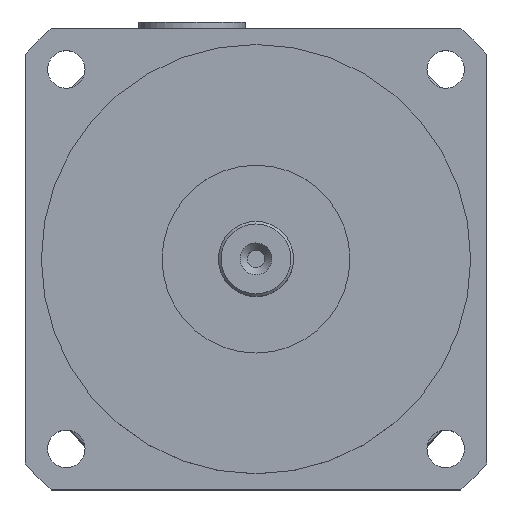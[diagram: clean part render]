
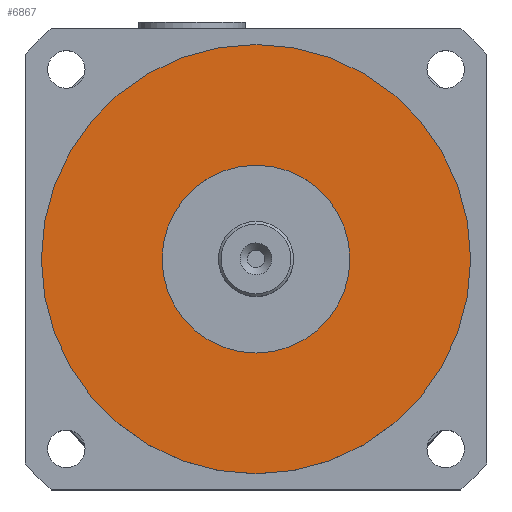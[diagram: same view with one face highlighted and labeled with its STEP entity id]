
A CAD part, top view. The second image highlights one B-rep face of the part: STEP entity #6867.
In plain terms, the highlighted planar face has unit normal (0, 0, 1).
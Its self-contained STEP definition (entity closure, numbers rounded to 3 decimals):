
#2570=VERTEX_POINT('',#10286);
#2571=VERTEX_POINT('',#10290);
#3070=CIRCLE('',#7415,17.5);
#3071=CIRCLE('',#7418,40.);
#3517=EDGE_CURVE('',#2570,#2570,#3070,.T.);
#3518=EDGE_CURVE('',#2571,#2571,#3071,.T.);
#4553=ORIENTED_EDGE('',*,*,#3518,.F.);
#4554=ORIENTED_EDGE('',*,*,#3517,.T.);
#5966=EDGE_LOOP('',(#4553));
#5967=EDGE_LOOP('',(#4554));
#6436=FACE_BOUND('',#5966,.T.);
#6437=FACE_BOUND('',#5967,.T.);
#6867=ADVANCED_FACE('',(#6436,#6437),#8487,.F.);
#7415=AXIS2_PLACEMENT_3D('',#10285,#13506,#13507);
#7418=AXIS2_PLACEMENT_3D('',#10289,#13511,#13512);
#7420=AXIS2_PLACEMENT_3D('',#10293,#13515,$);
#8487=PLANE('',#7420);
#10285=CARTESIAN_POINT('',(0.,0.,177.));
#10286=CARTESIAN_POINT('',(17.5,0.,177.));
#10289=CARTESIAN_POINT('',(0.,0.,177.));
#10290=CARTESIAN_POINT('',(40.,0.,177.));
#10293=CARTESIAN_POINT('',(0.,0.,177.));
#13506=DIRECTION('',(0.,0.,-1.));
#13507=DIRECTION('',(-17.5,0.,0.));
#13511=DIRECTION('',(0.,0.,-1.));
#13512=DIRECTION('',(-40.,0.,0.));
#13515=DIRECTION('',(0.,0.,-1.));
